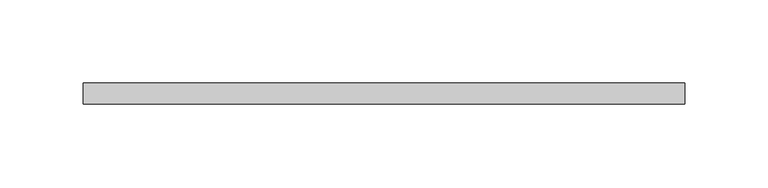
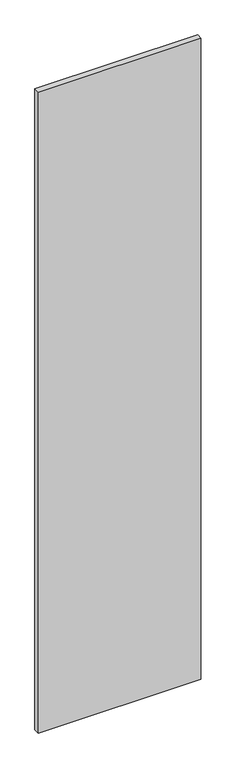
"""IFC4 building model written with IfcOpenShell, lengths in millimetres: proxy geometry, КНАУФ-Суперлист : КНАУФ-Суперлист."""

from ifc_helpers import new_model, si_unit, origin, origin_with_axes, place, context, project, spatial, polyline, outline, extrude, source, transform, mapped, element, save


def generic_models_da8a6fc9(model_context):
    return source(origin(), model_context, "Body", "SweptSolid", [
        extrude(outline(polyline([(180.0, 0.0), (-180.0, 0.0), (-180.0, 12.5), (180.0, 12.5), (180.0, 0.0)])), origin_with_axes(), (0.0, 0.0, 1.0), 1500.0),
    ])


if __name__ == "__main__":
    model = new_model("IFC4")
    model_context = context("Model", 3, world=origin())
    ifc_project = project(units=[si_unit("LENGTHUNIT", "METRE", prefix="MILLI")], contexts=[model_context])
    site = spatial("IfcSite", under=ifc_project)
    building = spatial("IfcBuilding", under=site)
    placement = place(None, origin())
    generic_models_shape = generic_models_da8a6fc9(model_context)
    element("IfcBuildingElementProxy", 1, Name="КНАУФ-Суперлист : КНАУФ-Суперлист", ObjectType="КНАУФ-Суперлист : КНАУФ-Суперлист", at=placement, inside=building, context=model_context, shape_type="MappedRepresentation", body=[
        mapped(generic_models_shape, transform((0.0, 0.0, 0.0), x_axis=(1.0, 0.0, 0.0), y_axis=(0.0, 1.0, 0.0), z_axis=(0.0, 0.0, 1.0))),
    ])
    save(model, "model.ifc")
